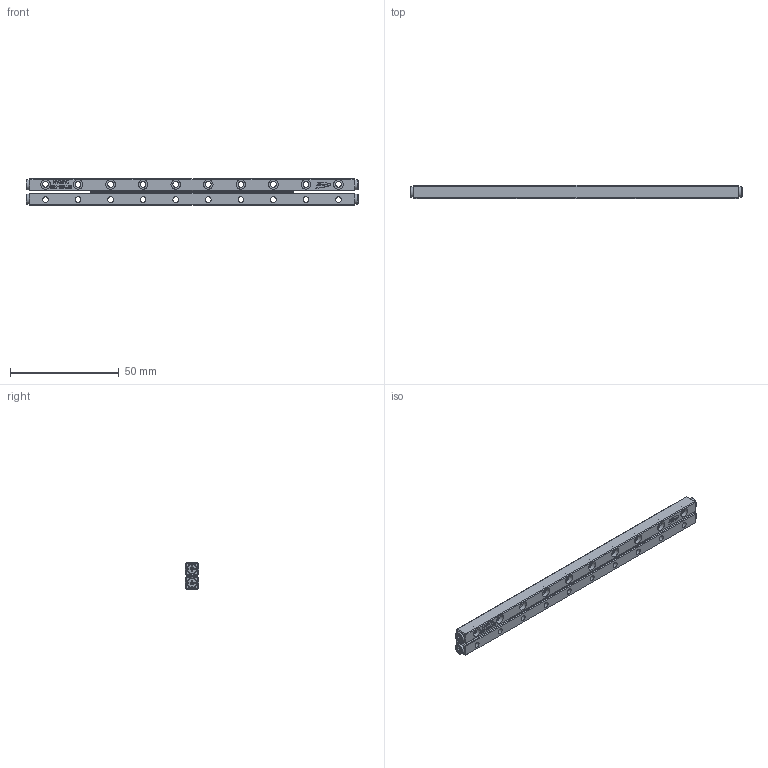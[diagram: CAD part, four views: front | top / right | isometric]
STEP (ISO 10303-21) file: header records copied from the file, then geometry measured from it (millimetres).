
FILE_DESCRIPTION (( 'STEP AP203' ), '1' );
FILE_NAME ('GRV02-150.STEP', '2023-08-18T08:42:53', ( '' ), ( '' ), 'SwSTEP 2.0', 'SolidWorks 2019', '' );
FILE_SCHEMA (( 'CONFIG_CONTROL_DESIGN' ));
Length unit declared in the file: millimetre
Products named in the file (3): GRV02-150; GRV02-150-模糊化保持器組; GRV02-150-模糊化軌道
Assembly tree (3 placements, depth 2):
  GRV02-150
    GRV02-150-模糊化軌道  x2
    GRV02-150-模糊化保持器組
Bounding box: 153 x 6 x 12 mm (x, y, z)
Volume: 8799.9 mm3; surface area: 9777.2 mm2
Topology: 3 solids, 3 shells, 1366 faces, 3494 edges, 2276 vertices
Faces by surface type: plane 874, cylinder 286, bspline 116, torus 54, cone 36
Full cylindrical faces by diameter (mm): 2.6 x20, 4.4 x20, 4.7 x4
Entity records: 34242 total; most frequent: CARTESIAN_POINT 10821, ORIENTED_EDGE 5146, DIRECTION 4245, EDGE_CURVE 2573, VERTEX_POINT 1700, LINE 1505, VECTOR 1505, AXIS2_PLACEMENT_3D 1370
